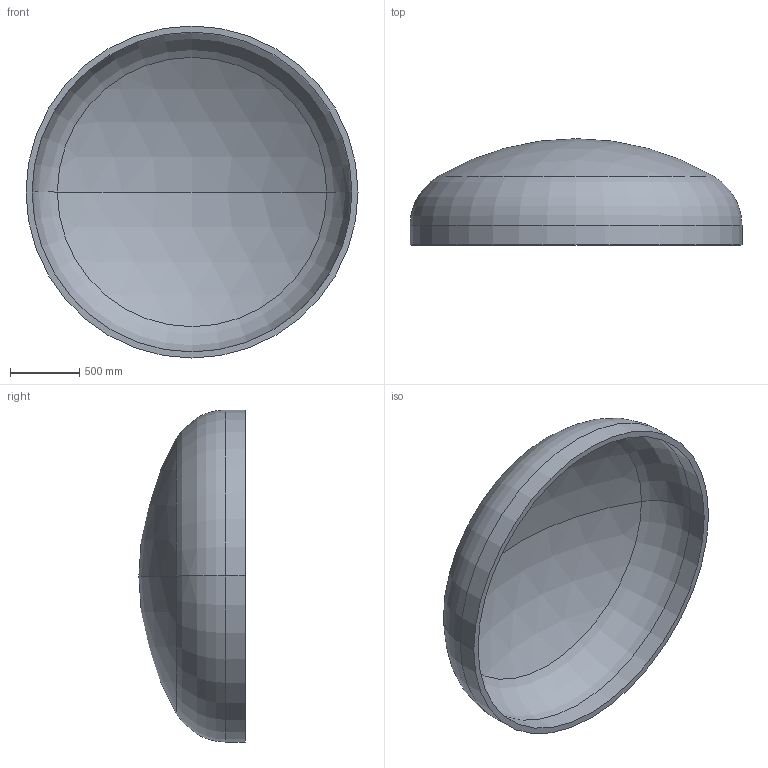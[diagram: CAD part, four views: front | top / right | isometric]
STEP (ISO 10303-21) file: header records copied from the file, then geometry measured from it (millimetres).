
FILE_DESCRIPTION (( 'STEP AP203' ), '1' );
FILE_NAME ('DIN 28013 Korbbogenform_-_Boden DIN 28013 - 2400 x 140 - I - s=44.step', '2016-07-01T15:23:25', ( '' ), ( '' ), 'SwSTEP 2.0', 'SolidWorks 2013', '' );
FILE_SCHEMA (( 'CONFIG_CONTROL_DESIGN' ));
Length unit declared in the file: millimetre
Products named in the file (1): DIN 28013 Korbbogenform_-_Boden DIN 28013 - 2400 x 140 - I - s=44
Bounding box: 2400 x 768.07 x 2400 mm (x, y, z)
Volume: 314753147.8 mm3; surface area: 14636681.4 mm2
Topology: 1 solids, 1 shells, 13 faces, 24 edges, 14 vertices
Faces by surface type: torus 4, cylinder 4, sphere 4, plane 1
Entity records: 407 total; most frequent: DIRECTION 72, CARTESIAN_POINT 52, ORIENTED_EDGE 48, AXIS2_PLACEMENT_3D 34, EDGE_CURVE 24, CIRCLE 20, EDGE_LOOP 14, VERTEX_POINT 14
